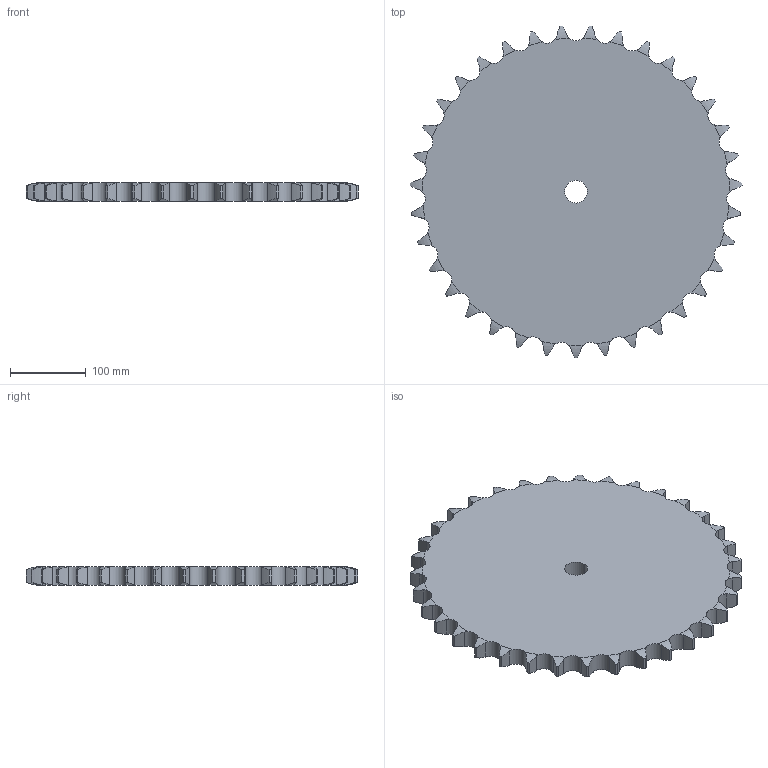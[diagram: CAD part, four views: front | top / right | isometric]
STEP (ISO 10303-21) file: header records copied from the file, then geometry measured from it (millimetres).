
FILE_DESCRIPTION((''),'2;1');
FILE_NAME('500-701-0035_PRT','2021-02-12T',('Brieden'),('Brieden'),'PRO/ENGINEER BY PARAMETRIC TECHNOLOGY CORPORATION, 2010160','PRO/ENGINEER BY PARAMETRIC TECHNOLOGY CORPORATION, 2010160','');
FILE_SCHEMA(('AUTOMOTIVE_DESIGN { 1 0 10303 214 1 1 1 1 }'));
Length unit declared in the file: millimetre
Products named in the file (1): 500-701-0035_PRT
Bounding box: 439.17 x 438.73 x 24.1 mm (x, y, z)
Volume: 3214160.5 mm3; surface area: 316214.1 mm2
Topology: 1 solids, 1 shells, 214 faces, 636 edges, 424 vertices
Faces by surface type: cylinder 142, torus 70, plane 2
Entity records: 10786 total; most frequent: CARTESIAN_POINT 3407, ORIENTED_EDGE 1272, DIRECTION 998, PRESENTATION_STYLE_ASSIGNMENT 637, STYLED_ITEM 637, CURVE_STYLE 636, EDGE_CURVE 636, AXIS2_PLACEMENT_3D 428
